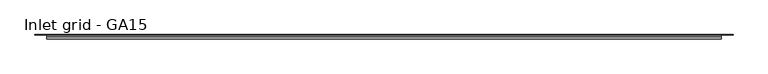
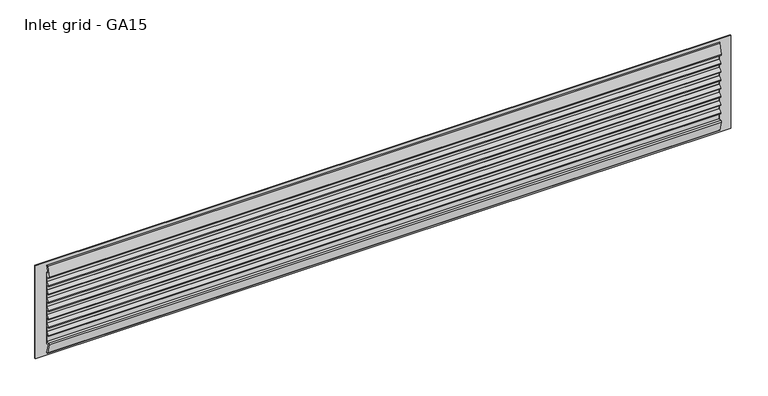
"""IFC4 building model written with IfcOpenShell, lengths in millimetres: proxy geometry, HVAC_Accessories_Emmeti_Grid-GA : Inlet grid - GA15."""

from ifc_helpers import new_model, si_unit, point, frame, frame_2d, origin, place, context, project, spatial, polyline, circle_curve, trimmed, segment, composite_curve, outline, extrude, source, transform, mapped, element, save


def inlet_grid_ga15_f24b3901(model_context):
    return source(origin(), model_context, "Body", "SweptSolid", [
        extrude(outline(composite_curve([segment(polyline([(-4.732363, 150.0), (0.0, 150.0), (0.0, 142.5976564), (-4.272988, 142.5976564)]), True, "CONTINUOUS"), segment(trimmed(circle_curve(frame_2d((-4.272988, 146.0976564)), 3.5), [point((-4.272988, 142.5976564))], [point((-7.772988, 146.0976564))], False, "CARTESIAN"), True, "CONTINUOUS"), segment(polyline([(-7.772988, 146.0976564), (-3.1350602, 163.4898854)]), True, "CONTINUOUS"), segment(trimmed(circle_curve(frame_2d((-1.9313102, 163.1688853)), 1.245815), [point((-3.1350602, 163.4898854))], [point((-1.0, 163.9963613))], False, "CARTESIAN"), True, "CONTINUOUS"), segment(polyline([(-1.0, 163.9963613), (-4.732363, 150.0)]), True, "CONTINUOUS")], self_intersect=False)), frame((-880.0, 0.0, 0.0), z_axis=(1.0, 0.0, 0.0), x_axis=(0.0, 1.0, 0.0)), (0.0, 0.0, 1.0), 1160.0),
        extrude(outline(composite_curve([segment(polyline([(0.0, 127.5116343), (-6.0, 127.5116343)]), True, "CONTINUOUS"), segment(trimmed(circle_curve(frame_2d((-4.0, 127.5116343)), 2.0), [point((-6.0, 127.5116343))], [point((-5.6369786, 128.6606778))], False, "CARTESIAN"), True, "CONTINUOUS"), segment(trimmed(circle_curve(frame_2d((9.0945217, 118.5661561)), 17.8582326), [point((-5.6369786, 128.6606778))], [point((-1.0, 133.2976564))], False, "CARTESIAN"), True, "CONTINUOUS"), segment(polyline([(-1.0, 133.2976564), (0.0, 133.2976564), (0.0, 127.5116343)]), True, "CONTINUOUS")], self_intersect=False)), frame((-880.0, 0.0, 0.0), z_axis=(1.0, 0.0, 0.0), x_axis=(0.0, 1.0, 0.0)), (0.0, 0.0, 1.0), 1160.0),
        extrude(outline(composite_curve([segment(polyline([(0.0, 112.4256122), (-6.0, 112.4256122)]), True, "CONTINUOUS"), segment(trimmed(circle_curve(frame_2d((-4.0, 112.4256122)), 2.0), [point((-6.0, 112.4256122))], [point((-5.6369786, 113.5746557))], False, "CARTESIAN"), True, "CONTINUOUS"), segment(trimmed(circle_curve(frame_2d((9.0945217, 103.480134)), 17.8582326), [point((-5.6369786, 113.5746557))], [point((-1.0, 118.2116343))], False, "CARTESIAN"), True, "CONTINUOUS"), segment(polyline([(-1.0, 118.2116343), (0.0, 118.2116343), (0.0, 112.4256122)]), True, "CONTINUOUS")], self_intersect=False)), frame((-880.0, 0.0, 0.0), z_axis=(1.0, 0.0, 0.0), x_axis=(0.0, 1.0, 0.0)), (0.0, 0.0, 1.0), 1160.0),
        extrude(outline(composite_curve([segment(polyline([(0.0, 97.3395901), (-6.0, 97.3395901)]), True, "CONTINUOUS"), segment(trimmed(circle_curve(frame_2d((-4.0, 97.3395901)), 2.0), [point((-6.0, 97.3395901))], [point((-5.6369786, 98.4886335))], False, "CARTESIAN"), True, "CONTINUOUS"), segment(trimmed(circle_curve(frame_2d((9.0945217, 88.3941118)), 17.8582326), [point((-5.6369786, 98.4886335))], [point((-1.0, 103.1256122))], False, "CARTESIAN"), True, "CONTINUOUS"), segment(polyline([(-1.0, 103.1256122), (0.0, 103.1256122), (0.0, 97.3395901)]), True, "CONTINUOUS")], self_intersect=False)), frame((-880.0, 0.0, 0.0), z_axis=(1.0, 0.0, 0.0), x_axis=(0.0, 1.0, 0.0)), (0.0, 0.0, 1.0), 1160.0),
        extrude(outline(composite_curve([segment(polyline([(0.0, 82.187813), (-6.0, 82.187813)]), True, "CONTINUOUS"), segment(trimmed(circle_curve(frame_2d((-4.0, 82.187813)), 2.0), [point((-6.0, 82.187813))], [point((-5.6369786, 83.3368565))], False, "CARTESIAN"), True, "CONTINUOUS"), segment(trimmed(circle_curve(frame_2d((9.0945217, 73.2423348)), 17.8582326), [point((-5.6369786, 83.3368565))], [point((-1.0, 87.9738351))], False, "CARTESIAN"), True, "CONTINUOUS"), segment(polyline([(-1.0, 87.9738351), (0.0, 87.9738351), (0.0, 82.187813)]), True, "CONTINUOUS")], self_intersect=False)), frame((-880.0, 0.0, 0.0), z_axis=(1.0, 0.0, 0.0), x_axis=(0.0, 1.0, 0.0)), (0.0, 0.0, 1.0), 1160.0),
        extrude(outline(composite_curve([segment(polyline([(0.0, 67.1017909), (-6.0, 67.1017909)]), True, "CONTINUOUS"), segment(trimmed(circle_curve(frame_2d((-4.0, 67.1017909)), 2.0), [point((-6.0, 67.1017909))], [point((-5.6369786, 68.2508344))], False, "CARTESIAN"), True, "CONTINUOUS"), segment(trimmed(circle_curve(frame_2d((9.0945217, 58.1563127)), 17.8582326), [point((-5.6369786, 68.2508344))], [point((-1.0, 72.887813))], False, "CARTESIAN"), True, "CONTINUOUS"), segment(polyline([(-1.0, 72.887813), (0.0, 72.887813), (0.0, 67.1017909)]), True, "CONTINUOUS")], self_intersect=False)), frame((-880.0, 0.0, 0.0), z_axis=(1.0, 0.0, 0.0), x_axis=(0.0, 1.0, 0.0)), (0.0, 0.0, 1.0), 1160.0),
        extrude(outline(composite_curve([segment(polyline([(0.0, 52.0157688), (-6.0, 52.0157688)]), True, "CONTINUOUS"), segment(trimmed(circle_curve(frame_2d((-4.0, 52.0157688)), 2.0), [point((-6.0, 52.0157688))], [point((-5.6369786, 53.1648122))], False, "CARTESIAN"), True, "CONTINUOUS"), segment(trimmed(circle_curve(frame_2d((9.0945217, 43.0702905)), 17.8582326), [point((-5.6369786, 53.1648122))], [point((-1.0, 57.8017909))], False, "CARTESIAN"), True, "CONTINUOUS"), segment(polyline([(-1.0, 57.8017909), (0.0, 57.8017909), (0.0, 52.0157688)]), True, "CONTINUOUS")], self_intersect=False)), frame((-880.0, 0.0, 0.0), z_axis=(1.0, 0.0, 0.0), x_axis=(0.0, 1.0, 0.0)), (0.0, 0.0, 1.0), 1160.0),
        extrude(outline(composite_curve([segment(polyline([(0.0, 36.8639917), (-6.0, 36.8639917)]), True, "CONTINUOUS"), segment(trimmed(circle_curve(frame_2d((-4.0, 36.8639917)), 2.0), [point((-6.0, 36.8639917))], [point((-5.6369786, 38.0130352))], False, "CARTESIAN"), True, "CONTINUOUS"), segment(trimmed(circle_curve(frame_2d((9.0945217, 27.9185135)), 17.8582326), [point((-5.6369786, 38.0130352))], [point((-1.0, 42.6500138))], False, "CARTESIAN"), True, "CONTINUOUS"), segment(polyline([(-1.0, 42.6500138), (0.0, 42.6500138), (0.0, 36.8639917)]), True, "CONTINUOUS")], self_intersect=False)), frame((-880.0, 0.0, 0.0), z_axis=(1.0, 0.0, 0.0), x_axis=(0.0, 1.0, 0.0)), (0.0, 0.0, 1.0), 1160.0),
        extrude(outline(composite_curve([segment(polyline([(0.0, 20.0), (-5.132363, 20.0), (-1.0, 4.5036387)]), True, "CONTINUOUS"), segment(trimmed(circle_curve(frame_2d((-1.9313102, 5.3311147)), 1.245815), [point((-1.0, 4.5036387))], [point((-3.1350602, 5.0101146))], False, "CARTESIAN"), True, "CONTINUOUS"), segment(polyline([(-3.1350602, 5.0101146), (-7.772988, 22.4023436)]), True, "CONTINUOUS"), segment(trimmed(circle_curve(frame_2d((-5.772988, 22.4023436)), 2.0), [point((-7.772988, 22.4023436))], [point((-5.772988, 24.4023436))], False, "CARTESIAN"), True, "CONTINUOUS"), segment(polyline([(-5.772988, 24.4023436), (0.0, 24.4023436), (0.0, 20.0)]), True, "CONTINUOUS")], self_intersect=False)), frame((-880.0, 0.0, 0.0), z_axis=(1.0, 0.0, 0.0), x_axis=(0.0, 1.0, 0.0)), (0.0, 0.0, 1.0), 1160.0),
        extrude(outline(polyline([(170.0, 300.0), (170.0, -900.0), (0.0, -900.0), (0.0, 300.0), (170.0, 300.0)]), holes=[polyline([(150.0, 280.0), (20.0, 280.0), (20.0, -880.0), (150.0, -880.0), (150.0, 280.0)])]), frame((0.0, -1.0, 0.0), z_axis=(0.0, 1.0, 0.0), x_axis=(0.0, 0.0, 1.0)), (0.0, 0.0, 1.0), 1.0),
        extrude(outline(polyline([(280.0, 0.0), (280.0, -1.0), (-880.0, -1.0), (-880.0, 0.0), (280.0, 0.0)])), frame((0.0, 0.0, 24.4023436), z_axis=(0.0, 0.0, 1.0), x_axis=(1.0, 0.0, 0.0)), (0.0, 0.0, 1.0), 125.5976564),
    ])


if __name__ == "__main__":
    model = new_model("IFC4")
    model_context = context("Model", 3, world=origin())
    ifc_project = project(units=[si_unit("LENGTHUNIT", "METRE", prefix="MILLI")], contexts=[model_context])
    site = spatial("IfcSite", under=ifc_project)
    building = spatial("IfcBuilding", under=site)
    placement = place(None, origin())
    inlet_grid_ga15_shape = inlet_grid_ga15_f24b3901(model_context)
    element("IfcBuildingElementProxy", 1, Name="HVAC_Accessories_Emmeti_Grid-GA : Inlet grid - GA15", ObjectType="HVAC_Accessories_Emmeti_Grid-GA : Inlet grid - GA15", at=placement, inside=building, context=model_context, shape_type="MappedRepresentation", body=[
        mapped(inlet_grid_ga15_shape, transform((0.0, 0.0, 0.0), x_axis=(1.0, 0.0, 0.0), y_axis=(0.0, 1.0, 0.0), z_axis=(0.0, 0.0, 1.0))),
    ])
    save(model, "model.ifc")
